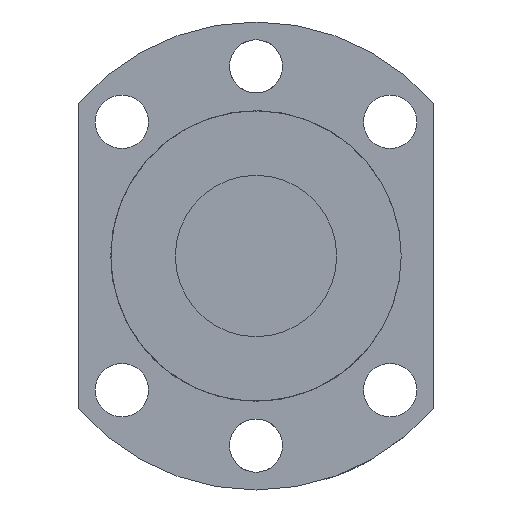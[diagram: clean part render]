
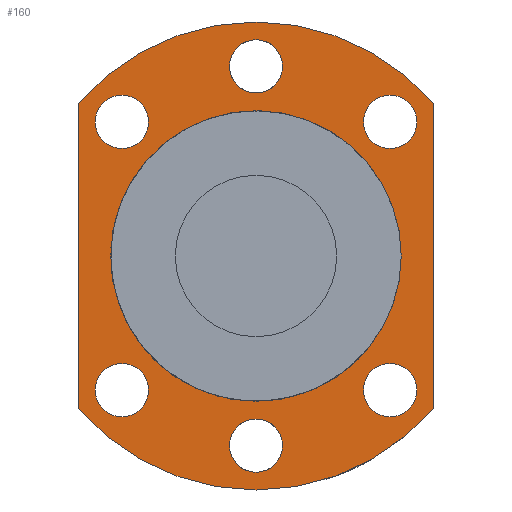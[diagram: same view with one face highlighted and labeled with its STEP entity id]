
A CAD part, front view. The second image highlights one B-rep face of the part: STEP entity #160.
In plain terms, the highlighted planar face has unit normal (0, -1, 0).
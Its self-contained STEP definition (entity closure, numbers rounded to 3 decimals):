
#98=LINE('',#839,#108);
#102=LINE('',#910,#112);
#108=VECTOR('',#667,1.);
#112=VECTOR('',#679,1.);
#135=PLANE('',#594);
#160=ADVANCED_FACE('',(#220,#221,#222,#223,#224,#225,#226,#227),#135,.F.);
#220=FACE_BOUND('',#289,.T.);
#221=FACE_BOUND('',#290,.T.);
#222=FACE_BOUND('',#291,.T.);
#223=FACE_BOUND('',#292,.T.);
#224=FACE_BOUND('',#293,.T.);
#225=FACE_BOUND('',#294,.T.);
#226=FACE_BOUND('',#295,.T.);
#227=FACE_BOUND('',#296,.T.);
#289=EDGE_LOOP('',(#375));
#290=EDGE_LOOP('',(#376));
#291=EDGE_LOOP('',(#377));
#292=EDGE_LOOP('',(#378));
#293=EDGE_LOOP('',(#379));
#294=EDGE_LOOP('',(#380));
#295=EDGE_LOOP('',(#381));
#296=EDGE_LOOP('',(#382,#383,#384,#385));
#375=ORIENTED_EDGE('',*,*,#499,.F.);
#376=ORIENTED_EDGE('',*,*,#500,.F.);
#377=ORIENTED_EDGE('',*,*,#501,.F.);
#378=ORIENTED_EDGE('',*,*,#502,.T.);
#379=ORIENTED_EDGE('',*,*,#503,.T.);
#380=ORIENTED_EDGE('',*,*,#504,.T.);
#381=ORIENTED_EDGE('',*,*,#505,.T.);
#382=ORIENTED_EDGE('',*,*,#479,.F.);
#383=ORIENTED_EDGE('',*,*,#490,.F.);
#384=ORIENTED_EDGE('',*,*,#487,.F.);
#385=ORIENTED_EDGE('',*,*,#483,.F.);
#437=VERTEX_POINT('',#831);
#438=VERTEX_POINT('',#832);
#441=VERTEX_POINT('',#840);
#444=VERTEX_POINT('',#905);
#453=VERTEX_POINT('',#929);
#454=VERTEX_POINT('',#931);
#455=VERTEX_POINT('',#933);
#456=VERTEX_POINT('',#935);
#457=VERTEX_POINT('',#937);
#458=VERTEX_POINT('',#939);
#459=VERTEX_POINT('',#941);
#479=EDGE_CURVE('',#437,#438,#526,.T.);
#483=EDGE_CURVE('',#438,#441,#98,.T.);
#487=EDGE_CURVE('',#441,#444,#528,.T.);
#490=EDGE_CURVE('',#444,#437,#102,.T.);
#499=EDGE_CURVE('',#453,#453,#537,.T.);
#500=EDGE_CURVE('',#454,#454,#538,.T.);
#501=EDGE_CURVE('',#455,#455,#539,.T.);
#502=EDGE_CURVE('',#456,#456,#540,.T.);
#503=EDGE_CURVE('',#457,#457,#541,.T.);
#504=EDGE_CURVE('',#458,#458,#542,.T.);
#505=EDGE_CURVE('',#459,#459,#543,.T.);
#526=CIRCLE('',#571,29.);
#528=CIRCLE('',#575,29.);
#537=CIRCLE('',#587,3.3);
#538=CIRCLE('',#588,3.3);
#539=CIRCLE('',#589,3.3);
#540=CIRCLE('',#590,3.3);
#541=CIRCLE('',#591,3.3);
#542=CIRCLE('',#592,3.3);
#543=CIRCLE('',#593,18.);
#571=AXIS2_PLACEMENT_3D('',#830,#659,#660);
#575=AXIS2_PLACEMENT_3D('',#904,#672,#673);
#587=AXIS2_PLACEMENT_3D('',#928,#699,#700);
#588=AXIS2_PLACEMENT_3D('',#930,#701,#702);
#589=AXIS2_PLACEMENT_3D('',#932,#703,#704);
#590=AXIS2_PLACEMENT_3D('',#934,#705,#706);
#591=AXIS2_PLACEMENT_3D('',#936,#707,#708);
#592=AXIS2_PLACEMENT_3D('',#938,#709,#710);
#593=AXIS2_PLACEMENT_3D('',#940,#711,#712);
#594=AXIS2_PLACEMENT_3D('',#942,#713,#714);
#659=DIRECTION('',(0.,1.,0.));
#660=DIRECTION('',(1.,0.,0.));
#667=DIRECTION('',(0.,0.,-1.));
#672=DIRECTION('',(0.,1.,0.));
#673=DIRECTION('',(1.,0.,0.));
#679=DIRECTION('',(0.,0.,1.));
#699=DIRECTION('',(0.,-1.,0.));
#700=DIRECTION('',(-1.,0.,0.));
#701=DIRECTION('',(0.,-1.,0.));
#702=DIRECTION('',(-0.707,0.,-0.707));
#703=DIRECTION('',(0.,-1.,0.));
#704=DIRECTION('',(0.,0.,-1.));
#705=DIRECTION('',(0.,1.,0.));
#706=DIRECTION('',(-1.,0.,0.));
#707=DIRECTION('',(0.,1.,0.));
#708=DIRECTION('',(-0.707,0.,0.707));
#709=DIRECTION('',(0.,1.,0.));
#710=DIRECTION('',(0.,0.,1.));
#711=DIRECTION('',(0.,1.,0.));
#712=DIRECTION('',(1.,0.,0.));
#713=DIRECTION('',(0.,1.,0.));
#714=DIRECTION('',(0.,0.,1.));
#830=CARTESIAN_POINT('',(0.,-25.5,0.));
#831=CARTESIAN_POINT('',(-22.,-25.5,18.894));
#832=CARTESIAN_POINT('',(22.,-25.5,18.894));
#839=CARTESIAN_POINT('',(22.,-25.5,18.894));
#840=CARTESIAN_POINT('',(22.,-25.5,-18.894));
#904=CARTESIAN_POINT('',(0.,-25.5,0.));
#905=CARTESIAN_POINT('',(-22.,-25.5,-18.894));
#910=CARTESIAN_POINT('',(-22.,-25.5,-18.894));
#928=CARTESIAN_POINT('',(16.617,-25.5,16.617));
#929=CARTESIAN_POINT('',(13.317,-25.5,16.617));
#930=CARTESIAN_POINT('',(0.,-25.5,23.5));
#931=CARTESIAN_POINT('',(-2.333,-25.5,21.167));
#932=CARTESIAN_POINT('',(-16.617,-25.5,16.617));
#933=CARTESIAN_POINT('',(-16.617,-25.5,13.317));
#934=CARTESIAN_POINT('',(16.617,-25.5,-16.617));
#935=CARTESIAN_POINT('',(13.317,-25.5,-16.617));
#936=CARTESIAN_POINT('',(0.,-25.5,-23.5));
#937=CARTESIAN_POINT('',(-2.333,-25.5,-21.167));
#938=CARTESIAN_POINT('',(-16.617,-25.5,-16.617));
#939=CARTESIAN_POINT('',(-16.617,-25.5,-13.317));
#940=CARTESIAN_POINT('',(0.,-25.5,0.));
#941=CARTESIAN_POINT('',(18.,-25.5,0.));
#942=CARTESIAN_POINT('',(0.,-25.5,0.));
